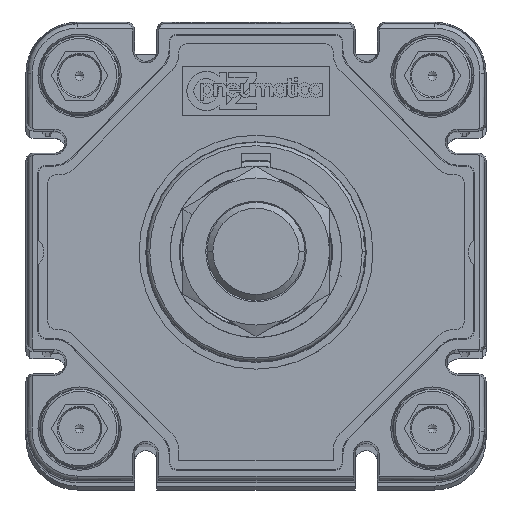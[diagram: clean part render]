
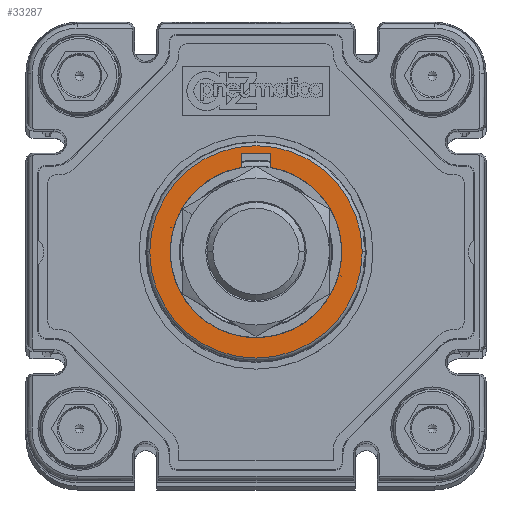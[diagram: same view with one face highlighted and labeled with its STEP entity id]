
A CAD part, top view. The second image highlights one B-rep face of the part: STEP entity #33287.
In plain terms, the highlighted planar face has unit normal (0, 0, 1) as drawn and (0, 0, -1) by its records, which use the part's own axes.
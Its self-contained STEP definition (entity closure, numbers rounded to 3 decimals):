
#1969 = CARTESIAN_POINT ( 'NONE',  ( 3., 20., -68.1 ) ) ;
#4059 = EDGE_LOOP ( 'NONE', ( #28156, #56767, #44679, #60351, #73540 ) ) ;
#6007 = LINE ( 'NONE', #84241, #33552 ) ;
#7648 = CARTESIAN_POINT ( 'NONE',  ( 0., -17.5, -68.1 ) ) ;
#7747 = ORIENTED_EDGE ( 'NONE', *, *, #56751, .F. ) ;
#8957 = CARTESIAN_POINT ( 'NONE',  ( -3., 17.241, -68.1 ) ) ;
#9149 = VECTOR ( 'NONE', #99012, 1000. ) ;
#10720 = DIRECTION ( 'NONE',  ( 0., -1., 0. ) ) ;
#11538 = CARTESIAN_POINT ( 'NONE',  ( 0., 0., -68.1 ) ) ;
#11905 = VECTOR ( 'NONE', #10720, 1000. ) ;
#13698 = FACE_BOUND ( 'NONE', #4059, .T. ) ;
#13886 = AXIS2_PLACEMENT_3D ( 'NONE', #11538, #35518, #96054 ) ;
#13915 = DIRECTION ( 'NONE',  ( 0., 0., 1. ) ) ;
#14080 = EDGE_CURVE ( 'NONE', #42701, #20148, #48540, .T. ) ;
#14732 = AXIS2_PLACEMENT_3D ( 'NONE', #36252, #83034, #29589 ) ;
#15510 = DIRECTION ( 'NONE',  ( 0., -1., 0. ) ) ;
#19474 = DIRECTION ( 'NONE',  ( -1., 0., 0. ) ) ;
#20148 = VERTEX_POINT ( 'NONE', #94572 ) ;
#24334 = EDGE_CURVE ( 'NONE', #34404, #51831, #36261, .T. ) ;
#24790 = AXIS2_PLACEMENT_3D ( 'NONE', #80637, #13915, #19474 ) ;
#26827 = VERTEX_POINT ( 'NONE', #83607 ) ;
#28156 = ORIENTED_EDGE ( 'NONE', *, *, #49395, .T. ) ;
#28351 = CIRCLE ( 'NONE', #85290, 17.5 ) ;
#29589 = DIRECTION ( 'NONE',  ( -1., 0., 0. ) ) ;
#33287 = ADVANCED_FACE ( 'NONE', ( #56648, #13698 ), #51590, .T. ) ;
#33552 = VECTOR ( 'NONE', #54157, 1000. ) ;
#34404 = VERTEX_POINT ( 'NONE', #7648 ) ;
#35518 = DIRECTION ( 'NONE',  ( 0., 0., 1. ) ) ;
#36252 = CARTESIAN_POINT ( 'NONE',  ( 0., 0., -68.1 ) ) ;
#36261 = CIRCLE ( 'NONE', #13886, 17.5 ) ;
#39131 = CIRCLE ( 'NONE', #24790, 21.674 ) ;
#39135 = VERTEX_POINT ( 'NONE', #55502 ) ;
#42701 = VERTEX_POINT ( 'NONE', #1969 ) ;
#44057 = EDGE_CURVE ( 'NONE', #51831, #42701, #6007, .T. ) ;
#44679 = ORIENTED_EDGE ( 'NONE', *, *, #24334, .T. ) ;
#45085 = EDGE_CURVE ( 'NONE', #85043, #34404, #28351, .T. ) ;
#45484 = CARTESIAN_POINT ( 'NONE',  ( 3., 20., -68.1 ) ) ;
#46164 = CARTESIAN_POINT ( 'NONE',  ( 0., 0., -68.1 ) ) ;
#46481 = CARTESIAN_POINT ( 'NONE',  ( 0., 0., -68.1 ) ) ;
#46918 = AXIS2_PLACEMENT_3D ( 'NONE', #46481, #90990, #76907 ) ;
#48540 = LINE ( 'NONE', #45484, #9149 ) ;
#49395 = EDGE_CURVE ( 'NONE', #20148, #85043, #75048, .T. ) ;
#51590 = PLANE ( 'NONE',  #14732 ) ;
#51831 = VERTEX_POINT ( 'NONE', #86564 ) ;
#54157 = DIRECTION ( 'NONE',  ( 0., 1., 0. ) ) ;
#55502 = CARTESIAN_POINT ( 'NONE',  ( -21.674, 0., -68.1 ) ) ;
#56648 = FACE_OUTER_BOUND ( 'NONE', #69228, .T. ) ;
#56751 = EDGE_CURVE ( 'NONE', #39135, #26827, #58743, .T. ) ;
#56767 = ORIENTED_EDGE ( 'NONE', *, *, #45085, .T. ) ;
#58743 = CIRCLE ( 'NONE', #46918, 21.674 ) ;
#59377 = ORIENTED_EDGE ( 'NONE', *, *, #97639, .F. ) ;
#60351 = ORIENTED_EDGE ( 'NONE', *, *, #44057, .T. ) ;
#61137 = CARTESIAN_POINT ( 'NONE',  ( -3., 20., -68.1 ) ) ;
#69228 = EDGE_LOOP ( 'NONE', ( #7747, #59377 ) ) ;
#73540 = ORIENTED_EDGE ( 'NONE', *, *, #14080, .T. ) ;
#75048 = LINE ( 'NONE', #61137, #11905 ) ;
#75904 = DIRECTION ( 'NONE',  ( 0., 0., 1. ) ) ;
#76907 = DIRECTION ( 'NONE',  ( -1., 0., 0. ) ) ;
#80637 = CARTESIAN_POINT ( 'NONE',  ( 0., 0., -68.1 ) ) ;
#83034 = DIRECTION ( 'NONE',  ( 0., 0., -1. ) ) ;
#83607 = CARTESIAN_POINT ( 'NONE',  ( 21.674, 0., -68.1 ) ) ;
#84241 = CARTESIAN_POINT ( 'NONE',  ( 3., 20., -68.1 ) ) ;
#85043 = VERTEX_POINT ( 'NONE', #8957 ) ;
#85290 = AXIS2_PLACEMENT_3D ( 'NONE', #46164, #75904, #15510 ) ;
#86564 = CARTESIAN_POINT ( 'NONE',  ( 3., 17.241, -68.1 ) ) ;
#90990 = DIRECTION ( 'NONE',  ( 0., 0., 1. ) ) ;
#94572 = CARTESIAN_POINT ( 'NONE',  ( -3., 20., -68.1 ) ) ;
#96054 = DIRECTION ( 'NONE',  ( 0., -1., 0. ) ) ;
#97639 = EDGE_CURVE ( 'NONE', #26827, #39135, #39131, .T. ) ;
#99012 = DIRECTION ( 'NONE',  ( -1., 0., 0. ) ) ;
